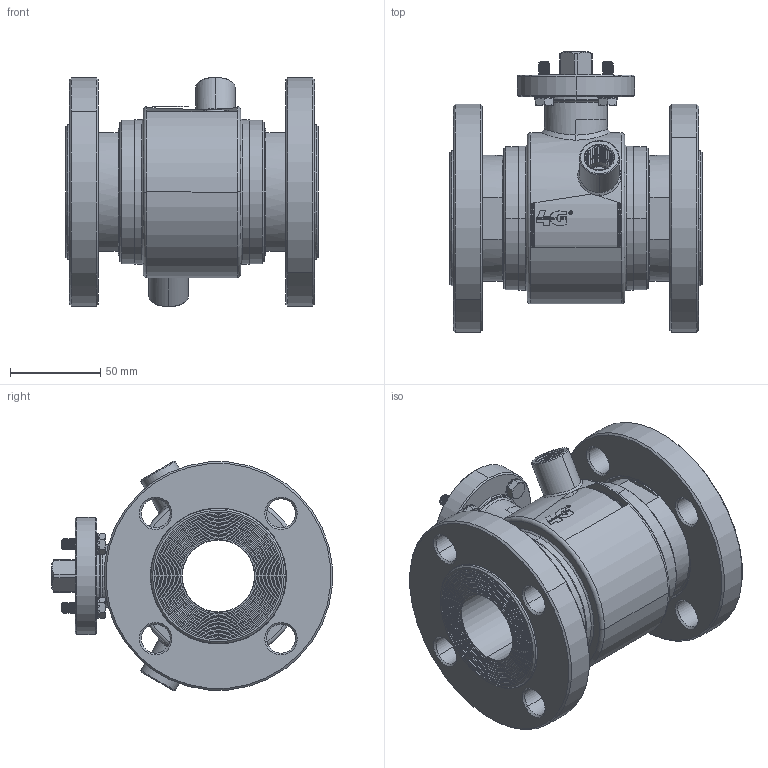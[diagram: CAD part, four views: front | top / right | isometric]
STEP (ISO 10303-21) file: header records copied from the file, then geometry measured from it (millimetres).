
FILE_DESCRIPTION((''),'2;1');
FILE_NAME('133055C63410_SW0001','2026-07-28T09:46:38',('tecnico2'),('CDM Tecnoconsulting'),'CREO PARAMETRIC BY PTC INC, 2024063','CREO PARAMETRIC BY PTC INC, 2024063','');
FILE_SCHEMA(('CONFIG_CONTROL_DESIGN','SHAPE_APPEARANCE_LAYERS_GROUPS'));
Products named in the file (1): 133055C63410_SW0001
Bounding box: 140 x 155.76 x 127.41 mm (x, y, z)
Volume: 833602.2 mm3; surface area: 181332.8 mm2
Topology: 1 solids, 1 shells, 1642 faces, 4559 edges, 2888 vertices
Faces by surface type: plane 569, cylinder 483, cone 208, bspline 146, torus 112, extrusion 112, sphere 12
Entity records: 106925 total; most frequent: CARTESIAN_POINT 53670, ORIENTED_EDGE 9086, DIRECTION 6824, PRESENTATION_STYLE_ASSIGNMENT 4602, STYLED_ITEM 4544, CURVE_STYLE 4543, EDGE_CURVE 4543, VERTEX_POINT 2884
